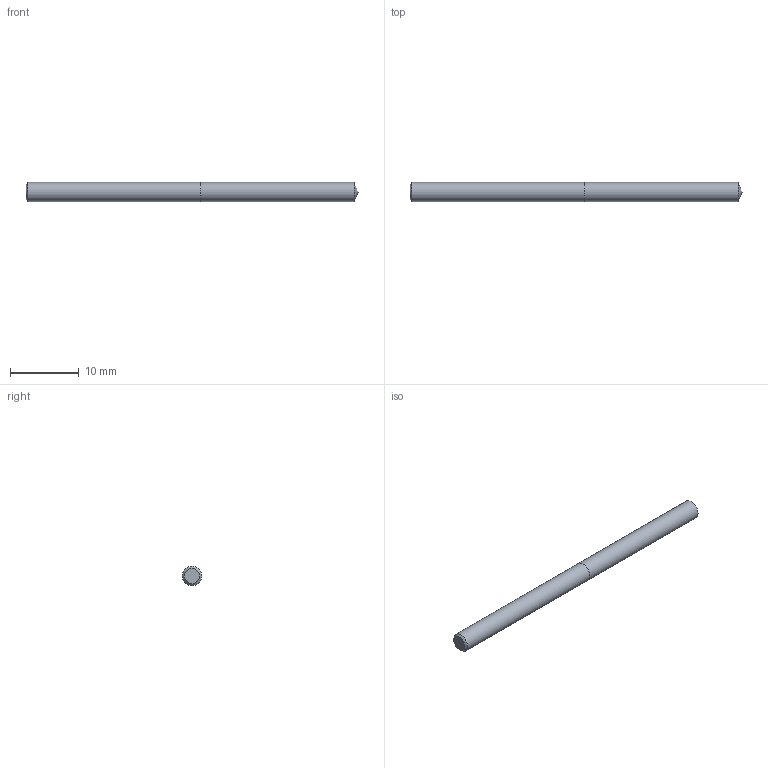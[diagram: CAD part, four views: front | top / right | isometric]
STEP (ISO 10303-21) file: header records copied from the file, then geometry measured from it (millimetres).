
FILE_DESCRIPTION (( 'STEP AP214' ), '1' );
FILE_NAME ('03-2377.STEP', '2022-06-03T06:57:00', ( 'USER' ), ( '' ), 'SwSTEP 2.0', 'SolidWorks 2018', '' );
FILE_SCHEMA (( 'AUTOMOTIVE_DESIGN' ));
Length unit declared in the file: inch
Products named in the file (1): 03-2377
Bounding box: 48.2 x 2.79 x 2.79 mm (x, y, z)
Volume: 292.9 mm3; surface area: 441.5 mm2
Topology: 2 solids, 2 shells, 7 faces, 11 edges, 7 vertices
Faces by surface type: plane 3, cylinder 2, cone 2
Full cylindrical faces by diameter (mm): 2.794 x2
Entity records: 214 total; most frequent: DIRECTION 26, CARTESIAN_POINT 18, AXIS2_PLACEMENT_3D 13, ORIENTED_EDGE 10, EDGE_LOOP 10, FACE_OUTER_BOUND 9, DIMENSIONAL_EXPONENTS 7, LENGTH_MEASURE_WITH_UNIT 7
